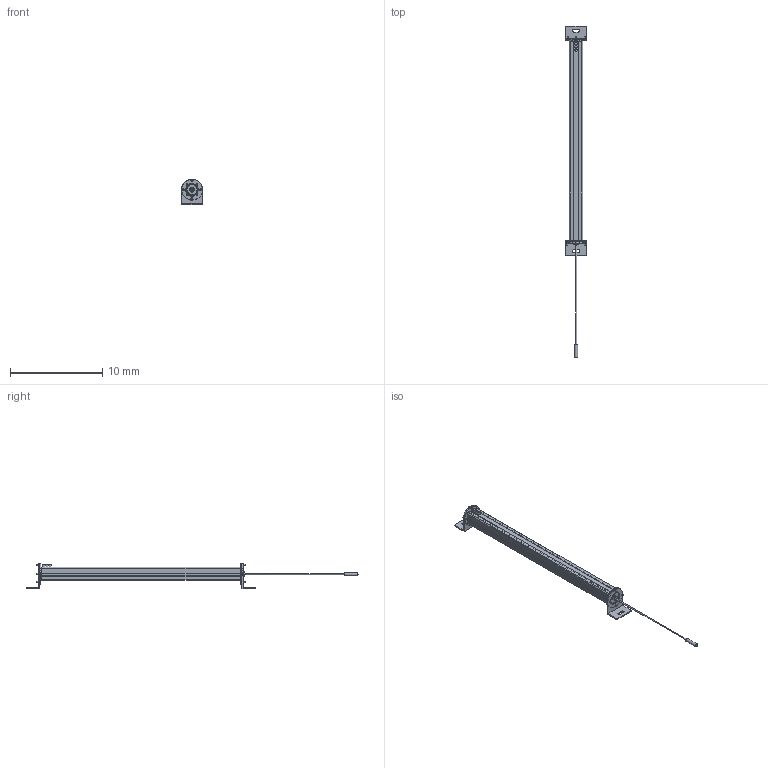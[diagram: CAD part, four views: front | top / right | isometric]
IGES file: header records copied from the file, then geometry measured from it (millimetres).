
Start section:  Autodesk DirectConnect version 7.0.27.0 ---- IGES version 5.3
Global section: file name: C:\ACADFILES\SS_PYLONS\CUSTOMER_FILES\SS-20-PYLON_3D_SMB.iges; native system: Autodesk DirectConnect 7.0.27.0; preprocessor: 7.0.27.0; author: ENGINEERMAIN; organization: Unknown; date: 20150810.124411; units: millimetre
Bounding box: 2.26 x 36.01 x 2.75 mm (x, y, z)
Surface area: 383.3 mm2 (no closed solid volume)
Topology: 0 solids, 0 shells, 754 faces, 3833 edges, 3829 vertices
Faces by surface type: bspline 754
